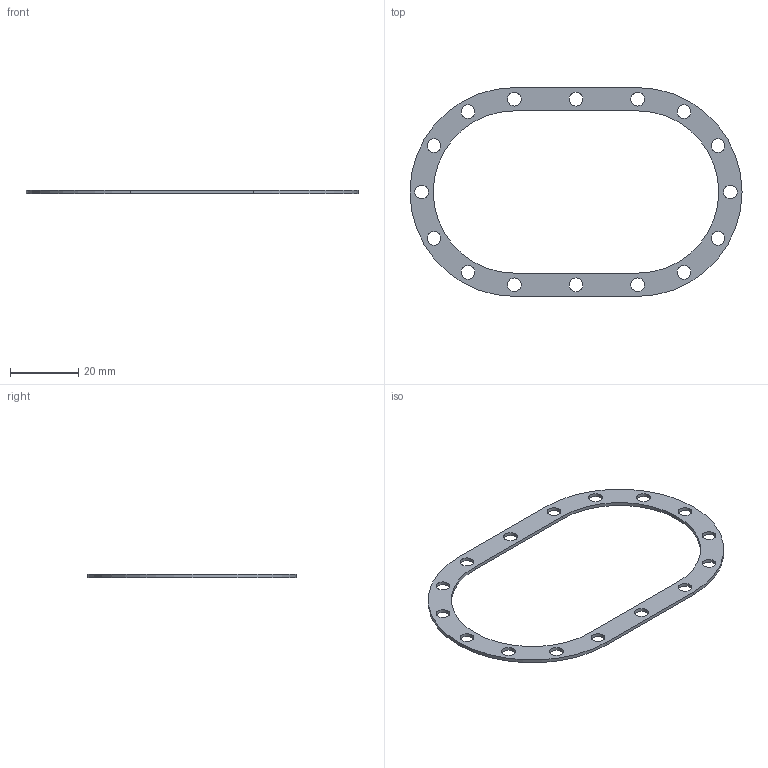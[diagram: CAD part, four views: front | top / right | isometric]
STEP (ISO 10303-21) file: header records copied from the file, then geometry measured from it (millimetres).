
FILE_DESCRIPTION(('FreeCAD Model'),'2;1');
FILE_NAME('Open CASCADE Shape Model','2022-10-12T14:21:04',(''),(''), 'Open CASCADE STEP processor 7.6','FreeCAD','Unknown');
FILE_SCHEMA(('AUTOMOTIVE_DESIGN { 1 0 10303 214 1 1 1 1 }'));
Length unit declared in the file: millimetre
Products named in the file (1): MultiTransform
Bounding box: 97 x 61 x 1 mm (x, y, z)
Volume: 1446.4 mm3; surface area: 3578.4 mm2
Topology: 1 solids, 1 shells, 28 faces, 78 edges, 52 vertices
Faces by surface type: cylinder 22, plane 6
Full cylindrical faces by diameter (mm): 4 x14
Entity records: 2111 total; most frequent: CARTESIAN_POINT 477, DIRECTION 309, ORIENTED_EDGE 156, PCURVE 156, DEFINITIONAL_REPRESENTATION 156, LINE 146, VECTOR 146, EDGE_CURVE 78
